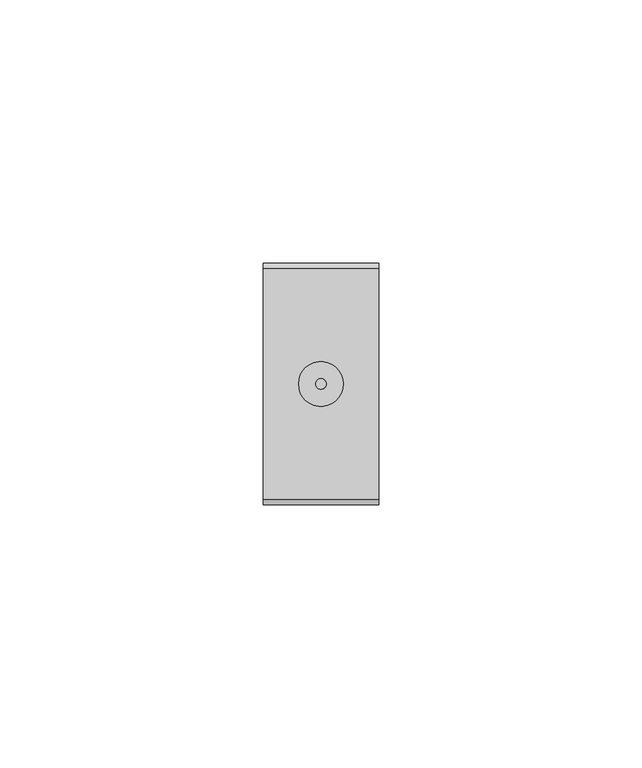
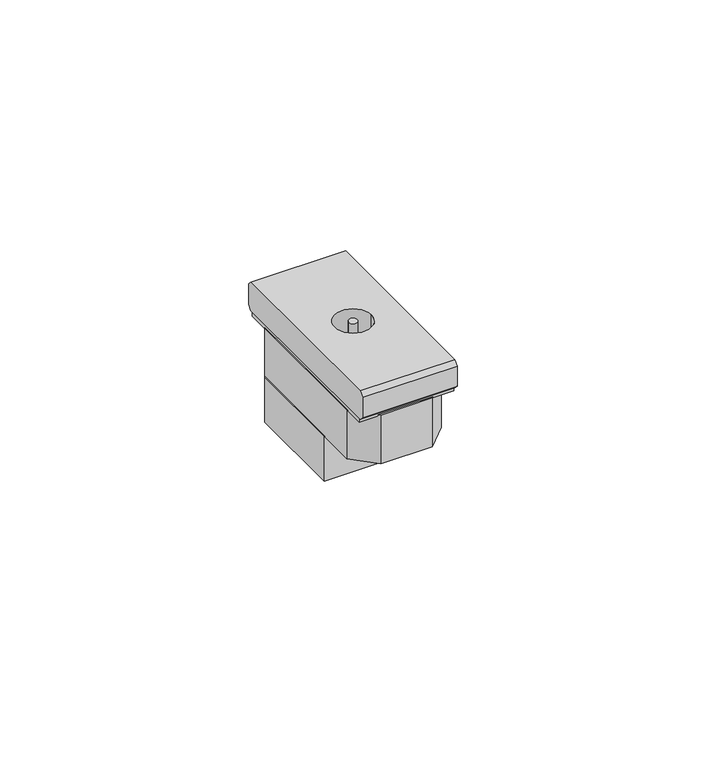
"""IFC4 building model written with IfcOpenShell, lengths in millimetres: proxy geometry, L4202D LL Presa TV-SAT : L4202D LL Presa TV-SAT."""

from ifc_helpers import new_model, si_unit, point, frame, origin, origin_with_axes, origin_2d, place, context, project, spatial, polyline, circle_curve, trimmed, segment, composite_curve, outline, extrude, source, transform, mapped, element, save
from ifc_brep_helpers import plane_surface, revolved_surface, advanced_brep


def electrical_fixtures_ff1b9b6a(model_context):
    return source(origin(), model_context, "Body", "SolidModel", [
        extrude(outline(composite_curve([segment(trimmed(circle_curve(origin_2d(), 1.0), [point((-1.0, 0.0))], [point((1.0, 0.0))], False, "CARTESIAN"), True, "CONTINUOUS"), segment(trimmed(circle_curve(origin_2d(), 1.0), [point((1.0, 0.0))], [point((-1.0, 0.0))], False, "CARTESIAN"), True, "CONTINUOUS")], self_intersect=False)), frame((0.0, 0.0, 1.0), z_axis=(0.0, 0.0, 1.0), x_axis=(1.0, 0.0, 0.0)), (0.0, 0.0, 1.0), 6.979899),
        advanced_brep(
        [(11.0, -22.0, 1.0), (11.0, 22.0, 1.0), (11.0, 22.9899495, 1.9899495), (11.0, 22.9899495, 6.9899495), (11.0, 22.0, 7.979899), (11.0, -22.0, 7.979899), (11.0, -22.9899495, 6.9899495), (11.0, -22.9899495, 1.9899495), (-11.0, -22.0, 1.0), (-11.0, -22.9899495, 1.9899495), (-11.0, -22.9899495, 6.9899495), (-11.0, -22.0, 7.979899), (-11.0, 22.0, 7.979899), (-11.0, 22.9899495, 6.9899495), (-11.0, 22.9899495, 1.9899495), (-11.0, 22.0, 1.0), (-4.25, 0.0, 1.0), (4.25, 0.0, 1.0), (4.25, 0.0, 7.979899), (-4.25, 0.0, 7.979899)],
        [
            (0, 1),
            (1, 2),
            (2, 3),
            (3, 4),
            (4, 5),
            (5, 6),
            (6, 7),
            (7, 0),
            (8, 9),
            (9, 10),
            (10, 11),
            (11, 12),
            (12, 13),
            (13, 14),
            (14, 15),
            (15, 8),
            (0, 8),
            (15, 1),
            (16, 17, circle_curve(frame((0.0, 0.0, 1.0), z_axis=(0.0, 0.0, 1.0), x_axis=(1.0, 0.0, 0.0)), 4.25)),
            (17, 16, circle_curve(frame((0.0, 0.0, 1.0), z_axis=(0.0, 0.0, 1.0), x_axis=(1.0, 0.0, 0.0)), 4.25)),
            (5, 11),
            (10, 6),
            (9, 7),
            (14, 2),
            (13, 3),
            (12, 4),
            (18, 19, circle_curve(frame((0.0, 0.0, 7.979899), z_axis=(0.0, 0.0, -1.0), x_axis=(1.0, 0.0, 0.0)), 4.25)),
            (19, 18, circle_curve(frame((0.0, 0.0, 7.979899), z_axis=(0.0, 0.0, -1.0), x_axis=(1.0, 0.0, 0.0)), 4.25)),
            (18, 17),
            (16, 19),
        ],
        [
            plane_surface(frame((11.0, 0.0, 1.0), z_axis=(1.0, 0.0, 0.0), x_axis=(0.0, 1.0, 0.0))),
            plane_surface(frame((-11.0, 0.0, 1.0), z_axis=(-1.0, 0.0, 0.0), x_axis=(0.0, -1.0, 0.0))),
            plane_surface(frame((11.0, -22.0, 1.0), z_axis=(0.0, 0.0, -1.0), x_axis=(-1.0, 0.0, 0.0))),
            plane_surface(frame((11.0, -22.0, 7.979899), z_axis=(0.0, -0.7071067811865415, 0.7071067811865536), x_axis=(-1.0, 0.0, 0.0))),
            plane_surface(frame((11.0, -22.9899495, 6.9899495), z_axis=(0.0, -1.0, 0.0), x_axis=(-1.0, 0.0, 0.0))),
            plane_surface(frame((11.0, -22.9899495, 1.9899495), z_axis=(0.0, -0.707106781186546, -0.707106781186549), x_axis=(-1.0, 0.0, 0.0))),
            plane_surface(frame((11.0, 22.0, 1.0), z_axis=(0.0, 0.7071067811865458, -0.7071067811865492), x_axis=(-1.0, 0.0, 0.0))),
            plane_surface(frame((11.0, 22.9899495, 1.9899495), z_axis=(0.0, 1.0, 0.0), x_axis=(-1.0, 0.0, 0.0))),
            plane_surface(frame((11.0, 22.9899495, 6.9899495), z_axis=(0.0, 0.7071067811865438, 0.7071067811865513), x_axis=(-1.0, 0.0, 0.0))),
            plane_surface(frame((11.0, 22.0, 7.979899), z_axis=(0.0, 0.0, 1.0), x_axis=(-1.0, 0.0, 0.0))),
            revolved_surface(polyline([(4.25, 0.0, 7.979899), (4.25, 0.0, 1.0)]), (0.0, 0.0, 1.0), (0.0, 0.0, 1.0)),
        ],
        [
            (0, [[1, 2, 3, 4, 5, 6, 7, 8]]),
            (1, [[9, 10, 11, 12, 13, 14, 15, 16]]),
            (2, [[-1, 17, -16, 18], [19, 20]]),
            (3, [[-6, 21, -11, 22]]),
            (4, [[-7, -22, -10, 23]]),
            (5, [[-8, -23, -9, -17]]),
            (6, [[-2, -18, -15, 24]]),
            (7, [[-3, -24, -14, 25]]),
            (8, [[-4, -25, -13, 26]]),
            (9, [[-5, -26, -12, -21], [27, 28]]),
            (10, [[29, -19, 30, -27]]),
            (10, [[-29, -28, -30, -20]]),
        ],
    ),
        extrude(outline(polyline([(-11.0, -7.5), (-11.0, 16.5), (-9.0, 18.5), (9.0, 18.5), (11.0, 16.5), (11.0, -7.5), (-11.0, -7.5)])), frame((0.0, 0.0, -23.0), z_axis=(0.0, 0.0, 1.0), x_axis=(1.0, 0.0, 0.0)), (0.0, 0.0, 1.0), 11.0),
        extrude(outline(polyline([(11.0, -16.5), (6.0, -21.5), (-6.0, -21.5), (-11.0, -16.5), (-11.0, 16.5), (-6.0, 21.5), (6.0, 21.5), (11.0, 16.5), (11.0, -16.5)])), frame((0.0, 0.0, -12.0), z_axis=(0.0, 0.0, 1.0), x_axis=(1.0, 0.0, 0.0)), (0.0, 0.0, 1.0), 12.0),
        extrude(outline(polyline([(11.0, -21.5), (-11.0, -21.5), (-11.0, 21.5), (11.0, 21.5), (11.0, -21.5)])), origin_with_axes(), (0.0, 0.0, 1.0), 1.0),
    ])


if __name__ == "__main__":
    model = new_model("IFC4")
    model_context = context("Model", 3, world=origin())
    ifc_project = project(units=[si_unit("LENGTHUNIT", "METRE", prefix="MILLI")], contexts=[model_context])
    site = spatial("IfcSite", under=ifc_project)
    building = spatial("IfcBuilding", under=site)
    placement = place(None, origin())
    electrical_fixtures_shape = electrical_fixtures_ff1b9b6a(model_context)
    element("IfcBuildingElementProxy", 1, Name="L4202D LL Presa TV-SAT : L4202D LL Presa TV-SAT", ObjectType="L4202D LL Presa TV-SAT : L4202D LL Presa TV-SAT", at=placement, inside=building, context=model_context, shape_type="MappedRepresentation", body=[
        mapped(electrical_fixtures_shape, transform((0.0, 0.0, 0.0), x_axis=(1.0, 0.0, 0.0), y_axis=(0.0, 1.0, 0.0), z_axis=(0.0, 0.0, 1.0))),
    ])
    save(model, "model.ifc")
